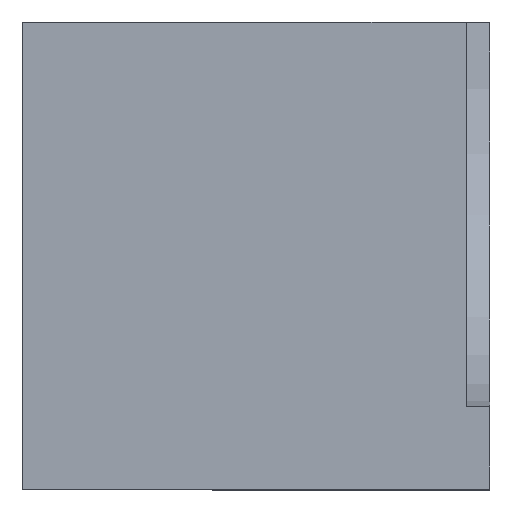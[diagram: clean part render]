
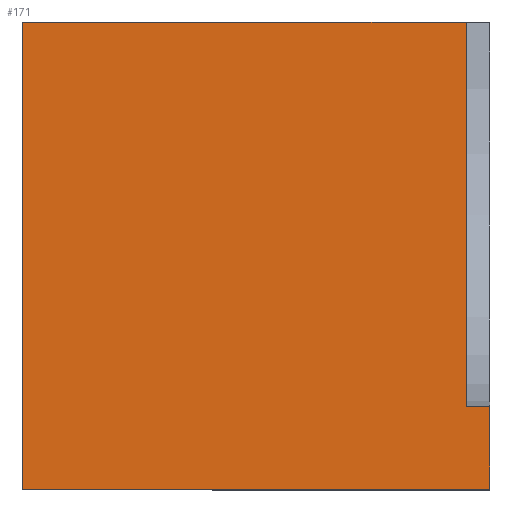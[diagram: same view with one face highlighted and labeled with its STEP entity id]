
A CAD part, top view. The second image highlights one B-rep face of the part: STEP entity #171.
In plain terms, the highlighted planar face has unit normal (0, 0, 1).
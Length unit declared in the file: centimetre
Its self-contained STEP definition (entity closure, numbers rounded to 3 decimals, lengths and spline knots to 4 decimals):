
#5 = DIRECTION ( 'NONE',  ( 1., 0., 0. ) ) ;
#10 = DIRECTION ( 'NONE',  ( 0., -1., 0. ) ) ;
#18 = VERTEX_POINT ( 'NONE', #204 ) ;
#31 = EDGE_CURVE ( 'NONE', #35, #361, #188, .T. ) ;
#34 = PLANE ( 'NONE',  #135 ) ;
#35 = VERTEX_POINT ( 'NONE', #89 ) ;
#37 = VERTEX_POINT ( 'NONE', #151 ) ;
#41 = ORIENTED_EDGE ( 'NONE', *, *, #31, .T. ) ;
#56 = DIRECTION ( 'NONE',  ( 0., 1., 0. ) ) ;
#64 = DIRECTION ( 'NONE',  ( 1., 0., 0. ) ) ;
#89 = CARTESIAN_POINT ( 'NONE',  ( 949.8448, 176.9758, 1000. ) ) ;
#97 = DIRECTION ( 'NONE',  ( 0., 0., 1. ) ) ;
#100 = CARTESIAN_POINT ( 'NONE',  ( 0., 0., 1000. ) ) ;
#114 = VECTOR ( 'NONE', #258, 100. ) ;
#116 = EDGE_CURVE ( 'NONE', #361, #37, #244, .T. ) ;
#117 = CARTESIAN_POINT ( 'NONE',  ( 949.8448, 1000., 1000. ) ) ;
#123 = VECTOR ( 'NONE', #10, 100. ) ;
#129 = CARTESIAN_POINT ( 'NONE',  ( 1000., 176.9758, 1000. ) ) ;
#131 = LINE ( 'NONE', #100, #328 ) ;
#135 = AXIS2_PLACEMENT_3D ( 'NONE', #164, #97, #5 ) ;
#151 = CARTESIAN_POINT ( 'NONE',  ( 0., 1000., 1000. ) ) ;
#164 = CARTESIAN_POINT ( 'NONE',  ( 0., 0., 1000. ) ) ;
#166 = LINE ( 'NONE', #356, #123 ) ;
#171 = ADVANCED_FACE ( 'NONE', ( #294 ), #34, .T. ) ;
#181 = LINE ( 'NONE', #282, #114 ) ;
#188 = LINE ( 'NONE', #286, #221 ) ;
#192 = LINE ( 'NONE', #291, #288 ) ;
#204 = CARTESIAN_POINT ( 'NONE',  ( 0., 0., 1000. ) ) ;
#206 = VECTOR ( 'NONE', #320, 100. ) ;
#208 = ORIENTED_EDGE ( 'NONE', *, *, #357, .T. ) ;
#215 = EDGE_CURVE ( 'NONE', #35, #301, #192, .T. ) ;
#221 = VECTOR ( 'NONE', #56, 100. ) ;
#223 = EDGE_LOOP ( 'NONE', ( #257, #41, #311, #353, #253, #208 ) ) ;
#244 = LINE ( 'NONE', #348, #206 ) ;
#253 = ORIENTED_EDGE ( 'NONE', *, *, #267, .T. ) ;
#256 = EDGE_CURVE ( 'NONE', #37, #18, #166, .T. ) ;
#257 = ORIENTED_EDGE ( 'NONE', *, *, #215, .F. ) ;
#258 = DIRECTION ( 'NONE',  ( 0., 1., 0. ) ) ;
#267 = EDGE_CURVE ( 'NONE', #18, #309, #131, .T. ) ;
#282 = CARTESIAN_POINT ( 'NONE',  ( 1000., 1000., 1000. ) ) ;
#286 = CARTESIAN_POINT ( 'NONE',  ( 949.8448, 0., 1000. ) ) ;
#288 = VECTOR ( 'NONE', #64, 100. ) ;
#291 = CARTESIAN_POINT ( 'NONE',  ( 949.8448, 176.9758, 1000. ) ) ;
#294 = FACE_OUTER_BOUND ( 'NONE', #223, .T. ) ;
#301 = VERTEX_POINT ( 'NONE', #129 ) ;
#309 = VERTEX_POINT ( 'NONE', #333 ) ;
#311 = ORIENTED_EDGE ( 'NONE', *, *, #116, .T. ) ;
#320 = DIRECTION ( 'NONE',  ( -1., 0., 0. ) ) ;
#328 = VECTOR ( 'NONE', #329, 100. ) ;
#329 = DIRECTION ( 'NONE',  ( 1., 0., 0. ) ) ;
#333 = CARTESIAN_POINT ( 'NONE',  ( 1000., 0., 1000. ) ) ;
#348 = CARTESIAN_POINT ( 'NONE',  ( 0., 1000., 1000. ) ) ;
#353 = ORIENTED_EDGE ( 'NONE', *, *, #256, .T. ) ;
#356 = CARTESIAN_POINT ( 'NONE',  ( 0., 1000., 1000. ) ) ;
#357 = EDGE_CURVE ( 'NONE', #309, #301, #181, .T. ) ;
#361 = VERTEX_POINT ( 'NONE', #117 ) ;
